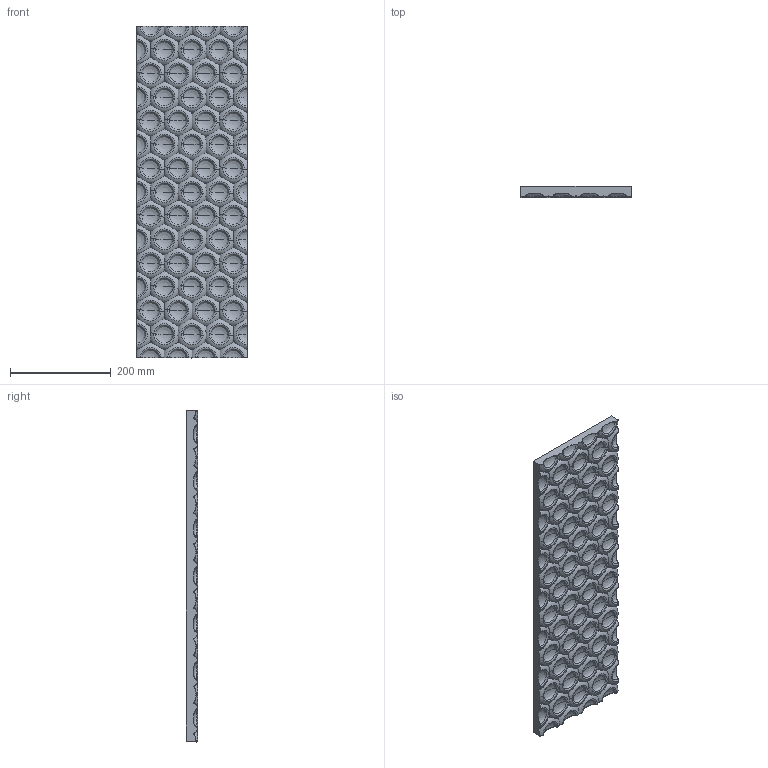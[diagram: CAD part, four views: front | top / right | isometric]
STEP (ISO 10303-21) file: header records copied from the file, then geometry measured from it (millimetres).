
FILE_DESCRIPTION(/* description */ (''),/* implementation_level */ '2;1');
FILE_NAME(/* name */ 'BO6601~1',/* time_stamp */ '2025-06-17T09:04:28+02:00',/* author */ (''),/* organization */ (''),/* preprocessor_version */ 'ST-DEVELOPER v15',/* originating_system */ '',/* authorisation */ '');
FILE_SCHEMA (('AUTOMOTIVE_DESIGN'));
Products named in the file (1): Document
Bounding box: 220 x 22 x 660 mm (x, y, z)
Volume: 2404245.1 mm3; surface area: 363828.1 mm2
Topology: 1 solids, 1 shells, 2081 faces, 5605 edges, 3347 vertices
Faces by surface type: bspline 2081
Entity records: 747626 total; most frequent: CARTESIAN_POINT 714263, ORIENTED_EDGE 10850, EDGE_CURVE 5425, B_SPLINE_CURVE_WITH_KNOTS 5411, VERTEX_POINT 3347, EDGE_LOOP 2082, ADVANCED_FACE 2081, FACE_OUTER_BOUND 2081
